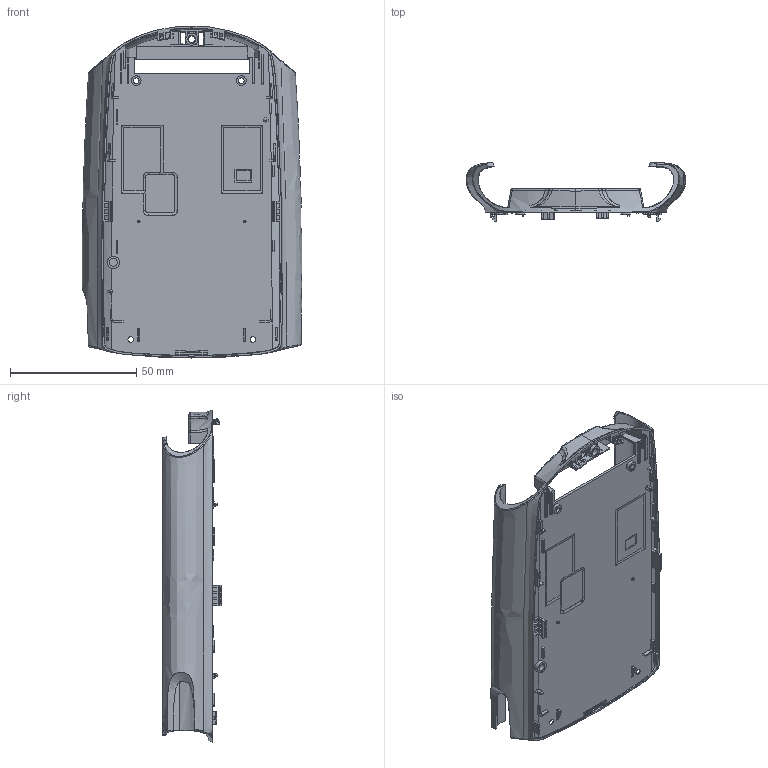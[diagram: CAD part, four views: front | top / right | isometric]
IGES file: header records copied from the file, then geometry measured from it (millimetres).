
Start section:  PTC IGES file: jc_jacket_prt.igs
Global section: file name: jc_jacket_prt.igs; native system: Pro/ENGINEER by Parametric Technology Corporation; preprocessor: 2000030; author: ECaille; organization: Unknown; date: 000803.092044; units: millimetre
Bounding box: 87.1 x 23.2 x 131.48 mm (x, y, z)
Surface area: 33005.7 mm2 (no closed solid volume)
Topology: 0 solids, 0 shells, 600 faces, 5547 edges, 7718 vertices
Faces by surface type: bspline 450, revolution 117, extrusion 33
